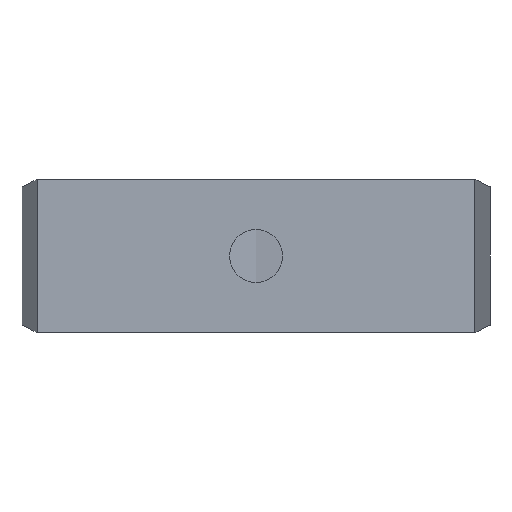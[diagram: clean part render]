
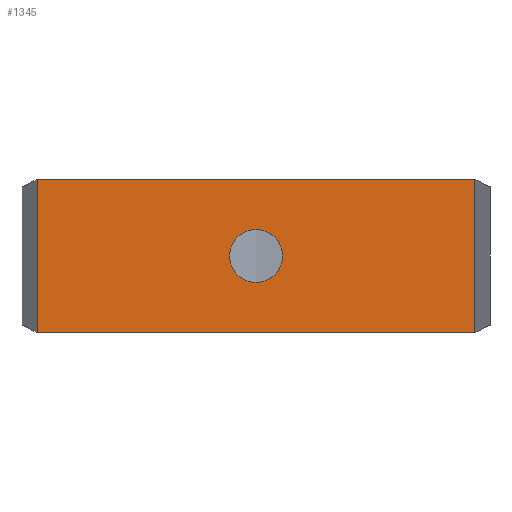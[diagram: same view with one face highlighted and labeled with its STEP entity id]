
A CAD part, front view. The second image highlights one B-rep face of the part: STEP entity #1345.
In plain terms, the highlighted planar face has unit normal (0, -1, 0).
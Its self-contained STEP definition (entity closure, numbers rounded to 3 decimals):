
#44 = VECTOR ( 'NONE', #3513, 1000. ) ;
#178 = DIRECTION ( 'NONE',  ( 0., 1., 0. ) ) ;
#225 = CARTESIAN_POINT ( 'NONE',  ( 0., 0., -4. ) ) ;
#238 = AXIS2_PLACEMENT_3D ( 'NONE', #366, #178, #461 ) ;
#274 = DIRECTION ( 'NONE',  ( -1., 0., 0. ) ) ;
#277 = FACE_BOUND ( 'NONE', #2144, .T. ) ;
#341 = ORIENTED_EDGE ( 'NONE', *, *, #2163, .T. ) ;
#366 = CARTESIAN_POINT ( 'NONE',  ( 0., 0., 0. ) ) ;
#461 = DIRECTION ( 'NONE',  ( 0., 0., 1. ) ) ;
#582 = CARTESIAN_POINT ( 'NONE',  ( 0., 0., -11.6 ) ) ;
#584 = DIRECTION ( 'NONE',  ( 0., 0., -1. ) ) ;
#614 = CIRCLE ( 'NONE', #1450, 4. ) ;
#615 = CARTESIAN_POINT ( 'NONE',  ( 0., 0., 0. ) ) ;
#674 = EDGE_CURVE ( 'NONE', #1416, #3019, #2640, .T. ) ;
#676 = DIRECTION ( 'NONE',  ( 0., 1., 0. ) ) ;
#809 = ORIENTED_EDGE ( 'NONE', *, *, #810, .T. ) ;
#810 = EDGE_CURVE ( 'NONE', #1183, #1041, #614, .T. ) ;
#844 = CARTESIAN_POINT ( 'NONE',  ( 33.15, 0., -11.6 ) ) ;
#971 = VERTEX_POINT ( 'NONE', #2066 ) ;
#1041 = VERTEX_POINT ( 'NONE', #225 ) ;
#1174 = CARTESIAN_POINT ( 'NONE',  ( 0., 0., 11.6 ) ) ;
#1180 = DIRECTION ( 'NONE',  ( 1., 0., 0. ) ) ;
#1183 = VERTEX_POINT ( 'NONE', #2721 ) ;
#1217 = DIRECTION ( 'NONE',  ( -1., 0., 0. ) ) ;
#1345 = ADVANCED_FACE ( 'NONE', ( #277, #2394 ), #3909, .T. ) ;
#1385 = LINE ( 'NONE', #2586, #44 ) ;
#1416 = VERTEX_POINT ( 'NONE', #2075 ) ;
#1420 = EDGE_LOOP ( 'NONE', ( #1437, #2319, #2821, #2336 ) ) ;
#1437 = ORIENTED_EDGE ( 'NONE', *, *, #2944, .F. ) ;
#1450 = AXIS2_PLACEMENT_3D ( 'NONE', #615, #676, #3699 ) ;
#1507 = CARTESIAN_POINT ( 'NONE',  ( 0., 0., 11.6 ) ) ;
#1546 = EDGE_CURVE ( 'NONE', #1416, #1632, #1385, .T. ) ;
#1632 = VERTEX_POINT ( 'NONE', #844 ) ;
#2066 = CARTESIAN_POINT ( 'NONE',  ( -33.15, 0., -11.6 ) ) ;
#2075 = CARTESIAN_POINT ( 'NONE',  ( 33.15, 0., 11.6 ) ) ;
#2144 = EDGE_LOOP ( 'NONE', ( #809, #341 ) ) ;
#2163 = EDGE_CURVE ( 'NONE', #1041, #1183, #3496, .T. ) ;
#2319 = ORIENTED_EDGE ( 'NONE', *, *, #1546, .F. ) ;
#2336 = ORIENTED_EDGE ( 'NONE', *, *, #3533, .T. ) ;
#2392 = LINE ( 'NONE', #582, #2975 ) ;
#2394 = FACE_OUTER_BOUND ( 'NONE', #1420, .T. ) ;
#2507 = LINE ( 'NONE', #2866, #3366 ) ;
#2586 = CARTESIAN_POINT ( 'NONE',  ( 33.15, 0., 11.6 ) ) ;
#2640 = LINE ( 'NONE', #1174, #2641 ) ;
#2641 = VECTOR ( 'NONE', #1217, 1000. ) ;
#2721 = CARTESIAN_POINT ( 'NONE',  ( 0., 0., 4. ) ) ;
#2821 = ORIENTED_EDGE ( 'NONE', *, *, #674, .T. ) ;
#2866 = CARTESIAN_POINT ( 'NONE',  ( -33.15, 0., 11.6 ) ) ;
#2909 = AXIS2_PLACEMENT_3D ( 'NONE', #1507, #3930, #1180 ) ;
#2944 = EDGE_CURVE ( 'NONE', #1632, #971, #2392, .T. ) ;
#2975 = VECTOR ( 'NONE', #274, 1000. ) ;
#3019 = VERTEX_POINT ( 'NONE', #3379 ) ;
#3366 = VECTOR ( 'NONE', #584, 1000. ) ;
#3379 = CARTESIAN_POINT ( 'NONE',  ( -33.15, 0., 11.6 ) ) ;
#3496 = CIRCLE ( 'NONE', #238, 4. ) ;
#3513 = DIRECTION ( 'NONE',  ( 0., 0., -1. ) ) ;
#3533 = EDGE_CURVE ( 'NONE', #3019, #971, #2507, .T. ) ;
#3699 = DIRECTION ( 'NONE',  ( 0., 0., 1. ) ) ;
#3909 = PLANE ( 'NONE',  #2909 ) ;
#3930 = DIRECTION ( 'NONE',  ( 0., -1., 0. ) ) ;
